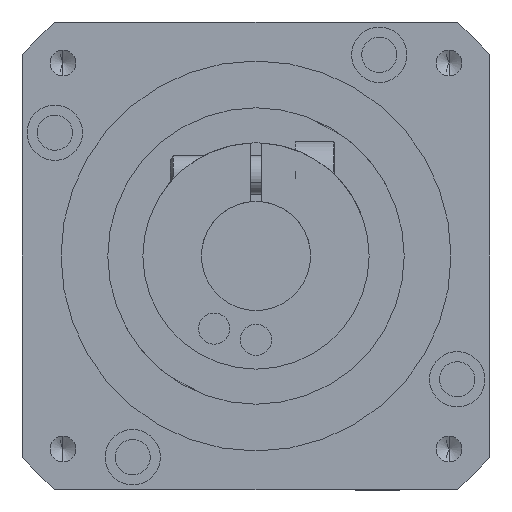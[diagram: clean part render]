
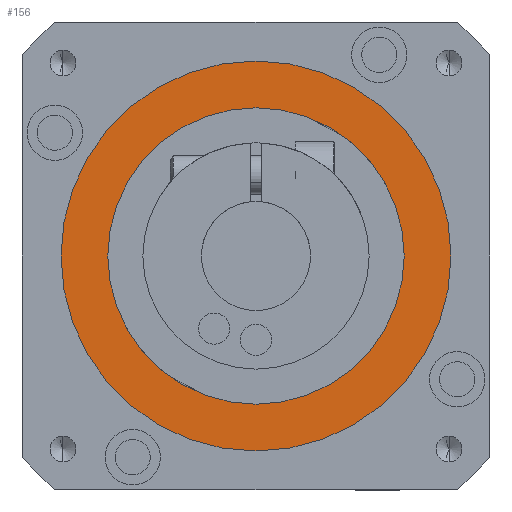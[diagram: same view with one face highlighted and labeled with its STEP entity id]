
A CAD part, front view. The second image highlights one B-rep face of the part: STEP entity #156.
In plain terms, the highlighted planar face has unit normal (0, -1, 0).
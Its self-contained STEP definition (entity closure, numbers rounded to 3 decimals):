
#156 = ADVANCED_FACE ( 'NONE', ( #7705, #6238 ), #7240, .F. ) ;
#1685 = VERTEX_POINT ( 'NONE', #6353 ) ;
#1908 = AXIS2_PLACEMENT_3D ( 'NONE', #8325, #4778, #2545 ) ;
#2018 = EDGE_CURVE ( 'NONE', #4764, #8525, #9072, .T. ) ;
#2109 = CIRCLE ( 'NONE', #1908, 25. ) ;
#2208 = CARTESIAN_POINT ( 'NONE',  ( 25., -36., 0. ) ) ;
#2268 = EDGE_LOOP ( 'NONE', ( #7764, #6175 ) ) ;
#2414 = VERTEX_POINT ( 'NONE', #8601 ) ;
#2545 = DIRECTION ( 'NONE',  ( 0., 0., 1. ) ) ;
#2901 = DIRECTION ( 'NONE',  ( 0., 0., 1. ) ) ;
#3159 = ORIENTED_EDGE ( 'NONE', *, *, #3558, .T. ) ;
#3284 = AXIS2_PLACEMENT_3D ( 'NONE', #6638, #5886, #4430 ) ;
#3558 = EDGE_CURVE ( 'NONE', #1685, #2414, #8818, .T. ) ;
#3661 = EDGE_CURVE ( 'NONE', #8525, #4764, #4341, .T. ) ;
#4341 = CIRCLE ( 'NONE', #3284, 19. ) ;
#4430 = DIRECTION ( 'NONE',  ( 0., 0., 1. ) ) ;
#4764 = VERTEX_POINT ( 'NONE', #7815 ) ;
#4778 = DIRECTION ( 'NONE',  ( 0., -1., 0. ) ) ;
#5030 = EDGE_LOOP ( 'NONE', ( #8584, #3159 ) ) ;
#5058 = CARTESIAN_POINT ( 'NONE',  ( 0., -36., 0. ) ) ;
#5079 = DIRECTION ( 'NONE',  ( 0., 1., 0. ) ) ;
#5177 = CARTESIAN_POINT ( 'NONE',  ( 0., -36., 0. ) ) ;
#5886 = DIRECTION ( 'NONE',  ( 0., 1., 0. ) ) ;
#6102 = AXIS2_PLACEMENT_3D ( 'NONE', #5177, #7309, #6701 ) ;
#6175 = ORIENTED_EDGE ( 'NONE', *, *, #2018, .T. ) ;
#6238 = FACE_OUTER_BOUND ( 'NONE', #5030, .T. ) ;
#6353 = CARTESIAN_POINT ( 'NONE',  ( 0., -36., -25. ) ) ;
#6489 = AXIS2_PLACEMENT_3D ( 'NONE', #2208, #5079, #9491 ) ;
#6638 = CARTESIAN_POINT ( 'NONE',  ( 0., -36., 0. ) ) ;
#6678 = EDGE_CURVE ( 'NONE', #2414, #1685, #2109, .T. ) ;
#6701 = DIRECTION ( 'NONE',  ( 0., 0., 1. ) ) ;
#7240 = PLANE ( 'NONE',  #6489 ) ;
#7309 = DIRECTION ( 'NONE',  ( 0., -1., 0. ) ) ;
#7696 = CARTESIAN_POINT ( 'NONE',  ( 0., -36., 19. ) ) ;
#7705 = FACE_BOUND ( 'NONE', #2268, .T. ) ;
#7764 = ORIENTED_EDGE ( 'NONE', *, *, #3661, .T. ) ;
#7815 = CARTESIAN_POINT ( 'NONE',  ( 0., -36., -19. ) ) ;
#8022 = DIRECTION ( 'NONE',  ( 0., 1., 0. ) ) ;
#8325 = CARTESIAN_POINT ( 'NONE',  ( 0., -36., 0. ) ) ;
#8525 = VERTEX_POINT ( 'NONE', #7696 ) ;
#8584 = ORIENTED_EDGE ( 'NONE', *, *, #6678, .T. ) ;
#8601 = CARTESIAN_POINT ( 'NONE',  ( 0., -36., 25. ) ) ;
#8818 = CIRCLE ( 'NONE', #6102, 25. ) ;
#9072 = CIRCLE ( 'NONE', #9227, 19. ) ;
#9227 = AXIS2_PLACEMENT_3D ( 'NONE', #5058, #8022, #2901 ) ;
#9491 = DIRECTION ( 'NONE',  ( 0., 0., 1. ) ) ;
